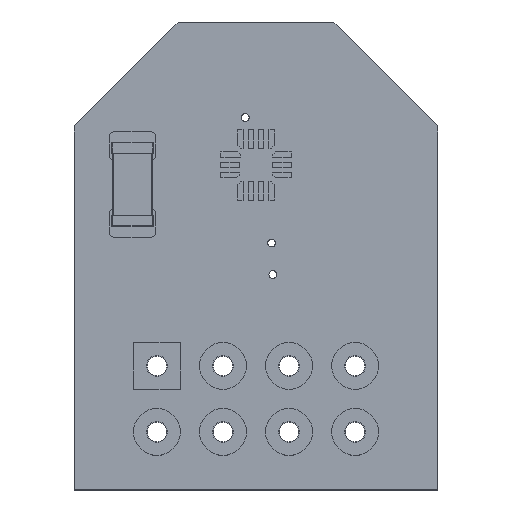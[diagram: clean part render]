
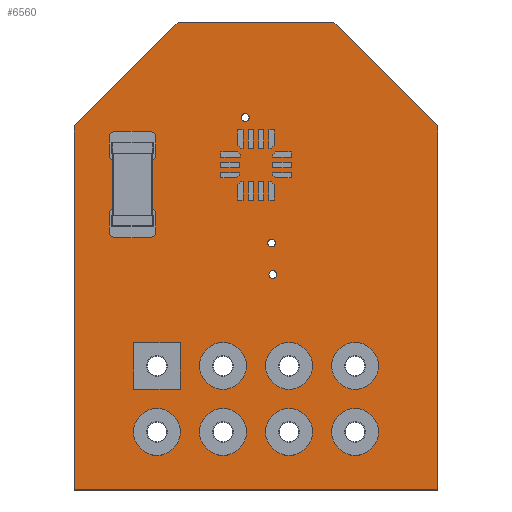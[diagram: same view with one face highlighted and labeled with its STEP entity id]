
A CAD part, top view. The second image highlights one B-rep face of the part: STEP entity #6560.
In plain terms, the highlighted planar face has unit normal (0, 0, 1).
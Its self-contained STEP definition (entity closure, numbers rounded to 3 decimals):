
#6311 = VERTEX_POINT('',#6312);
#6312 = CARTESIAN_POINT('',(64.,-54.,1.51));
#6318 = EDGE_CURVE('',#6311,#6319,#6321,.T.);
#6319 = VERTEX_POINT('',#6320);
#6320 = CARTESIAN_POINT('',(64.,-68.,1.51));
#6321 = LINE('',#6322,#6323);
#6322 = CARTESIAN_POINT('',(64.,-54.,1.51));
#6323 = VECTOR('',#6324,1.);
#6324 = DIRECTION('',(0.,-1.,0.));
#6351 = VERTEX_POINT('',#6352);
#6352 = CARTESIAN_POINT('',(60.,-50.,1.51));
#6358 = EDGE_CURVE('',#6351,#6311,#6359,.T.);
#6359 = LINE('',#6360,#6361);
#6360 = CARTESIAN_POINT('',(60.,-50.,1.51));
#6361 = VECTOR('',#6362,1.);
#6362 = DIRECTION('',(0.707,-0.707,0.));
#6380 = EDGE_CURVE('',#6319,#6381,#6383,.T.);
#6381 = VERTEX_POINT('',#6382);
#6382 = CARTESIAN_POINT('',(50.,-68.,1.51));
#6383 = LINE('',#6384,#6385);
#6384 = CARTESIAN_POINT('',(64.,-68.,1.51));
#6385 = VECTOR('',#6386,1.);
#6386 = DIRECTION('',(-1.,0.,0.));
#6560 = ADVANCED_FACE('',(#6561,#6588,#6599,#6610,#6621,#6632,#6643,
    #6654,#6665,#6676,#6687,#6698),#6709,.T.);
#6561 = FACE_BOUND('',#6562,.T.);
#6562 = EDGE_LOOP('',(#6563,#6564,#6565,#6573,#6581,#6587));
#6563 = ORIENTED_EDGE('',*,*,#6318,.F.);
#6564 = ORIENTED_EDGE('',*,*,#6358,.F.);
#6565 = ORIENTED_EDGE('',*,*,#6566,.F.);
#6566 = EDGE_CURVE('',#6567,#6351,#6569,.T.);
#6567 = VERTEX_POINT('',#6568);
#6568 = CARTESIAN_POINT('',(54.,-50.,1.51));
#6569 = LINE('',#6570,#6571);
#6570 = CARTESIAN_POINT('',(54.,-50.,1.51));
#6571 = VECTOR('',#6572,1.);
#6572 = DIRECTION('',(1.,0.,0.));
#6573 = ORIENTED_EDGE('',*,*,#6574,.F.);
#6574 = EDGE_CURVE('',#6575,#6567,#6577,.T.);
#6575 = VERTEX_POINT('',#6576);
#6576 = CARTESIAN_POINT('',(50.,-54.,1.51));
#6577 = LINE('',#6578,#6579);
#6578 = CARTESIAN_POINT('',(50.,-54.,1.51));
#6579 = VECTOR('',#6580,1.);
#6580 = DIRECTION('',(0.707,0.707,0.));
#6581 = ORIENTED_EDGE('',*,*,#6582,.F.);
#6582 = EDGE_CURVE('',#6381,#6575,#6583,.T.);
#6583 = LINE('',#6584,#6585);
#6584 = CARTESIAN_POINT('',(50.,-68.,1.51));
#6585 = VECTOR('',#6586,1.);
#6586 = DIRECTION('',(0.,1.,0.));
#6587 = ORIENTED_EDGE('',*,*,#6380,.F.);
#6588 = FACE_BOUND('',#6589,.T.);
#6589 = EDGE_LOOP('',(#6590));
#6590 = ORIENTED_EDGE('',*,*,#6591,.T.);
#6591 = EDGE_CURVE('',#6592,#6592,#6594,.T.);
#6592 = VERTEX_POINT('',#6593);
#6593 = CARTESIAN_POINT('',(53.19,-66.17,1.51));
#6594 = CIRCLE('',#6595,0.4);
#6595 = AXIS2_PLACEMENT_3D('',#6596,#6597,#6598);
#6596 = CARTESIAN_POINT('',(53.19,-65.77,1.51));
#6597 = DIRECTION('',(-0.,0.,-1.));
#6598 = DIRECTION('',(-0.,-1.,0.));
#6599 = FACE_BOUND('',#6600,.T.);
#6600 = EDGE_LOOP('',(#6601));
#6601 = ORIENTED_EDGE('',*,*,#6602,.T.);
#6602 = EDGE_CURVE('',#6603,#6603,#6605,.T.);
#6603 = VERTEX_POINT('',#6604);
#6604 = CARTESIAN_POINT('',(53.19,-63.63,1.51));
#6605 = CIRCLE('',#6606,0.4);
#6606 = AXIS2_PLACEMENT_3D('',#6607,#6608,#6609);
#6607 = CARTESIAN_POINT('',(53.19,-63.23,1.51));
#6608 = DIRECTION('',(-0.,0.,-1.));
#6609 = DIRECTION('',(-0.,-1.,0.));
#6610 = FACE_BOUND('',#6611,.T.);
#6611 = EDGE_LOOP('',(#6612));
#6612 = ORIENTED_EDGE('',*,*,#6613,.T.);
#6613 = EDGE_CURVE('',#6614,#6614,#6616,.T.);
#6614 = VERTEX_POINT('',#6615);
#6615 = CARTESIAN_POINT('',(55.73,-66.17,1.51));
#6616 = CIRCLE('',#6617,0.4);
#6617 = AXIS2_PLACEMENT_3D('',#6618,#6619,#6620);
#6618 = CARTESIAN_POINT('',(55.73,-65.77,1.51));
#6619 = DIRECTION('',(-0.,0.,-1.));
#6620 = DIRECTION('',(0.,-1.,0.));
#6621 = FACE_BOUND('',#6622,.T.);
#6622 = EDGE_LOOP('',(#6623));
#6623 = ORIENTED_EDGE('',*,*,#6624,.T.);
#6624 = EDGE_CURVE('',#6625,#6625,#6627,.T.);
#6625 = VERTEX_POINT('',#6626);
#6626 = CARTESIAN_POINT('',(55.73,-63.63,1.51));
#6627 = CIRCLE('',#6628,0.4);
#6628 = AXIS2_PLACEMENT_3D('',#6629,#6630,#6631);
#6629 = CARTESIAN_POINT('',(55.73,-63.23,1.51));
#6630 = DIRECTION('',(-0.,0.,-1.));
#6631 = DIRECTION('',(0.,-1.,0.));
#6632 = FACE_BOUND('',#6633,.T.);
#6633 = EDGE_LOOP('',(#6634));
#6634 = ORIENTED_EDGE('',*,*,#6635,.T.);
#6635 = EDGE_CURVE('',#6636,#6636,#6638,.T.);
#6636 = VERTEX_POINT('',#6637);
#6637 = CARTESIAN_POINT('',(58.27,-66.17,1.51));
#6638 = CIRCLE('',#6639,0.4);
#6639 = AXIS2_PLACEMENT_3D('',#6640,#6641,#6642);
#6640 = CARTESIAN_POINT('',(58.27,-65.77,1.51));
#6641 = DIRECTION('',(-0.,0.,-1.));
#6642 = DIRECTION('',(0.,-1.,-0.));
#6643 = FACE_BOUND('',#6644,.T.);
#6644 = EDGE_LOOP('',(#6645));
#6645 = ORIENTED_EDGE('',*,*,#6646,.T.);
#6646 = EDGE_CURVE('',#6647,#6647,#6649,.T.);
#6647 = VERTEX_POINT('',#6648);
#6648 = CARTESIAN_POINT('',(58.27,-63.63,1.51));
#6649 = CIRCLE('',#6650,0.4);
#6650 = AXIS2_PLACEMENT_3D('',#6651,#6652,#6653);
#6651 = CARTESIAN_POINT('',(58.27,-63.23,1.51));
#6652 = DIRECTION('',(-0.,0.,-1.));
#6653 = DIRECTION('',(0.,-1.,-0.));
#6654 = FACE_BOUND('',#6655,.T.);
#6655 = EDGE_LOOP('',(#6656));
#6656 = ORIENTED_EDGE('',*,*,#6657,.T.);
#6657 = EDGE_CURVE('',#6658,#6658,#6660,.T.);
#6658 = VERTEX_POINT('',#6659);
#6659 = CARTESIAN_POINT('',(60.81,-66.17,1.51));
#6660 = CIRCLE('',#6661,0.4);
#6661 = AXIS2_PLACEMENT_3D('',#6662,#6663,#6664);
#6662 = CARTESIAN_POINT('',(60.81,-65.77,1.51));
#6663 = DIRECTION('',(-0.,0.,-1.));
#6664 = DIRECTION('',(-0.,-1.,0.));
#6665 = FACE_BOUND('',#6666,.T.);
#6666 = EDGE_LOOP('',(#6667));
#6667 = ORIENTED_EDGE('',*,*,#6668,.T.);
#6668 = EDGE_CURVE('',#6669,#6669,#6671,.T.);
#6669 = VERTEX_POINT('',#6670);
#6670 = CARTESIAN_POINT('',(60.81,-63.63,1.51));
#6671 = CIRCLE('',#6672,0.4);
#6672 = AXIS2_PLACEMENT_3D('',#6673,#6674,#6675);
#6673 = CARTESIAN_POINT('',(60.81,-63.23,1.51));
#6674 = DIRECTION('',(-0.,0.,-1.));
#6675 = DIRECTION('',(-0.,-1.,0.));
#6676 = FACE_BOUND('',#6677,.T.);
#6677 = EDGE_LOOP('',(#6678));
#6678 = ORIENTED_EDGE('',*,*,#6679,.T.);
#6679 = EDGE_CURVE('',#6680,#6680,#6682,.T.);
#6680 = VERTEX_POINT('',#6681);
#6681 = CARTESIAN_POINT('',(56.587,-53.824,1.51));
#6682 = CIRCLE('',#6683,0.15);
#6683 = AXIS2_PLACEMENT_3D('',#6684,#6685,#6686);
#6684 = CARTESIAN_POINT('',(56.587,-53.674,1.51));
#6685 = DIRECTION('',(-0.,0.,-1.));
#6686 = DIRECTION('',(-0.,-1.,0.));
#6687 = FACE_BOUND('',#6688,.T.);
#6688 = EDGE_LOOP('',(#6689));
#6689 = ORIENTED_EDGE('',*,*,#6690,.T.);
#6690 = EDGE_CURVE('',#6691,#6691,#6693,.T.);
#6691 = VERTEX_POINT('',#6692);
#6692 = CARTESIAN_POINT('',(57.65,-59.865,1.51));
#6693 = CIRCLE('',#6694,0.15);
#6694 = AXIS2_PLACEMENT_3D('',#6695,#6696,#6697);
#6695 = CARTESIAN_POINT('',(57.65,-59.715,1.51));
#6696 = DIRECTION('',(-0.,0.,-1.));
#6697 = DIRECTION('',(-0.,-1.,0.));
#6698 = FACE_BOUND('',#6699,.T.);
#6699 = EDGE_LOOP('',(#6700));
#6700 = ORIENTED_EDGE('',*,*,#6701,.T.);
#6701 = EDGE_CURVE('',#6702,#6702,#6704,.T.);
#6702 = VERTEX_POINT('',#6703);
#6703 = CARTESIAN_POINT('',(57.6,-58.653,1.51));
#6704 = CIRCLE('',#6705,0.15);
#6705 = AXIS2_PLACEMENT_3D('',#6706,#6707,#6708);
#6706 = CARTESIAN_POINT('',(57.6,-58.503,1.51));
#6707 = DIRECTION('',(-0.,0.,-1.));
#6708 = DIRECTION('',(-0.,-1.,0.));
#6709 = PLANE('',#6710);
#6710 = AXIS2_PLACEMENT_3D('',#6711,#6712,#6713);
#6711 = CARTESIAN_POINT('',(0.,0.,1.51));
#6712 = DIRECTION('',(0.,0.,1.));
#6713 = DIRECTION('',(1.,0.,-0.));
